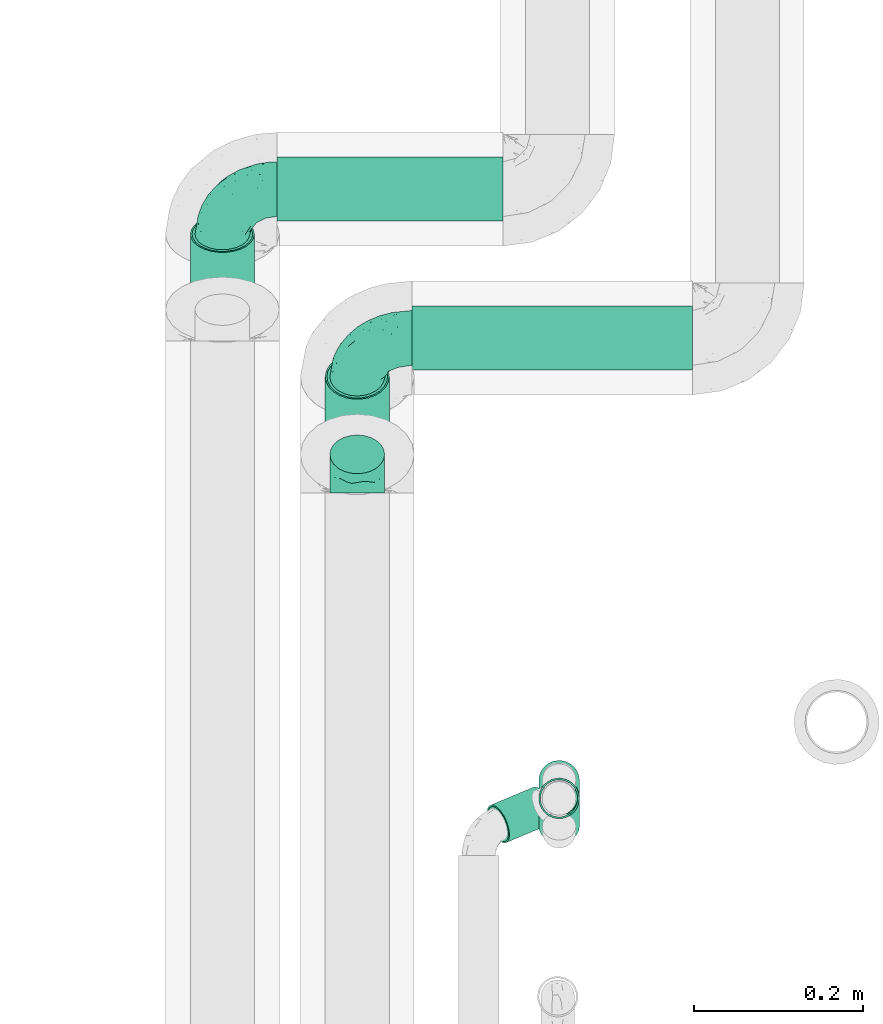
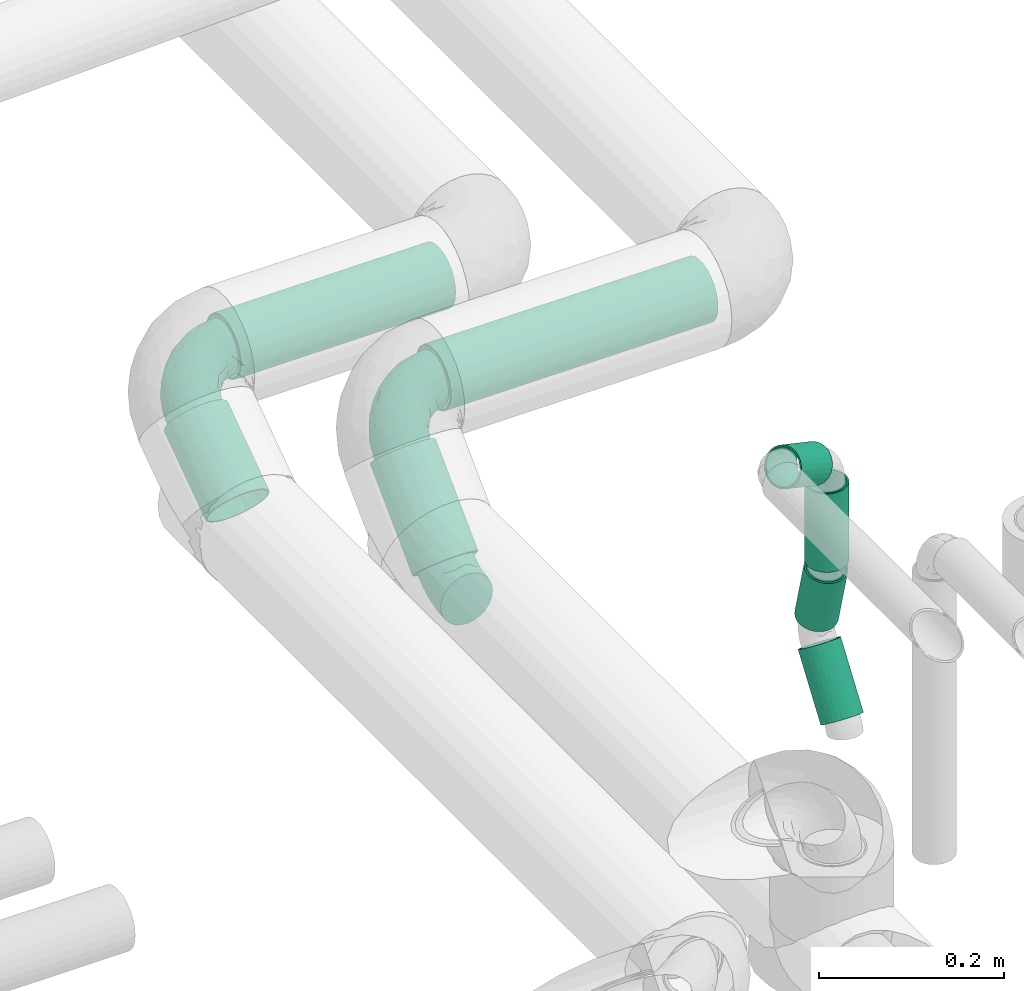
# One storey, part 59 of 156: 8 flow segments, 3 flow fittings.
"""IFC2X3 building model written with IfcOpenShell, lengths in millimetres."""

from ifc_helpers import new_model, entity, si_unit, converted_unit, derived_unit, direction, frame, origin_with_axes, origin_2d_with_axis, place, context, subcontext, project, spatial, hollow_circle, extrude, open_shell, surface_model, source, transform, mapped, type_object, element, save


model = new_model("IFC2X3")

# Units and contexts
model_context = context("Model", 3, precision=0.01, world=frame((0.0, 4.29681676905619e-09, 0.0)), true_north=direction((4.01073788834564e-13, 1.0)))
plan_context = context("Plan", 3, precision=0.01, world=frame((0.0, 4.29681676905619e-09, 0.0)), true_north=direction((4.01073788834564e-13, 1.0)))
body_context = subcontext(model_context, "Body", "Model", "MODEL_VIEW")
ifc_project = project(units=[converted_unit("PLANEANGLEUNIT", "DEGREE", entity("IfcPositiveLengthMeasure", 0.0174532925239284), si_unit("PLANEANGLEUNIT", "RADIAN"), dimensions=[0, 0, 0, 0, 0, 0, 0]), si_unit("AREAUNIT", "SQUARE_METRE"), si_unit("LENGTHUNIT", "METRE", prefix="MILLI"), si_unit("MASSUNIT", "GRAM", prefix="KILO"), si_unit("POWERUNIT", "WATT"), si_unit("PRESSUREUNIT", "PASCAL", prefix="KILO"), si_unit("FORCEUNIT", "NEWTON", prefix="KILO"), si_unit("ELECTRICVOLTAGEUNIT", "VOLT"), si_unit("ELECTRICCURRENTUNIT", "AMPERE"), si_unit("THERMODYNAMICTEMPERATUREUNIT", "DEGREE_CELSIUS"), si_unit("TIMEUNIT", "SECOND"), si_unit("VOLUMEUNIT", "CUBIC_METRE"), derived_unit("LINEARVELOCITYUNIT", [(si_unit("LENGTHUNIT", "METRE"), 1), (si_unit("TIMEUNIT", "SECOND"), -1)]), derived_unit("VOLUMETRICFLOWRATEUNIT", [(si_unit("VOLUMEUNIT", "CUBIC_METRE"), 1), (si_unit("TIMEUNIT", "SECOND"), -1)]), derived_unit("THERMALTRANSMITTANCEUNIT", [(si_unit("POWERUNIT", "WATT"), 1), (si_unit("THERMODYNAMICTEMPERATUREUNIT", "KELVIN"), -1), (si_unit("AREAUNIT", "SQUARE_METRE"), -1)]), derived_unit("SOUNDPRESSUREUNIT", [(si_unit("PRESSUREUNIT", "PASCAL"), 1)])], contexts=[model_context, plan_context])

# Site, building, storey
site_placement = place(None, frame((0.0, -4.29681676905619e-09, 0.0), z_axis=(0.0, 0.0, 1.0), x_axis=(1.0, 0.0, 0.0)))
site = spatial("IfcSite", under=ifc_project, at=site_placement, CompositionType="ELEMENT")
building_placement = place(site_placement, frame((0.0, 4.29681676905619e-09, 0.0), z_axis=(0.0, 0.0, 1.0), x_axis=(1.0, 0.0, 0.0)))
building = spatial("IfcBuilding", under=site, at=building_placement, Name="mc-building", CompositionType="ELEMENT")
storey_placement = place(building_placement, frame((0.0, 0.0, 205200.0), z_axis=(0.0, 0.0, 1.0), x_axis=(1.0, 0.0, 0.0)))
storey = spatial("IfcBuildingStorey", under=building, at=storey_placement, Name="Nivå D + 1,2 m", CompositionType="ELEMENT", Elevation=205200.0)

# Flow fittings
pipe_fitting_type = type_object("IfcPipeFittingType", Name="magi_pipe_elbow_short_001", PredefinedType="BEND")
shared_shape_1 = source(origin_with_axes(), body_context, "Body", "SurfaceModel", [
    surface_model("IfcShellBasedSurfaceModel", [(-65.0, 16.25, -28.14582), (-65.0, 8.41162, -31.39259), (-65.0, 0.0, -32.5), (-65.0, 22.98097, -22.98097), (-65.0, 31.39259, -8.41162), (-65.0, 28.14582, -16.25), (-65.0, -22.98097, -22.98097), (-65.0, -32.5, 0.0), (-65.0, -16.25, -28.14582), (-65.0, -8.41162, -31.39259), (-65.0, -31.39259, -8.41162), (-65.0, -28.14582, -16.25), (-65.0, 28.14582, 16.25), (-65.0, 31.39259, 8.41162), (-65.0, 16.25, 28.14582), (-65.0, -16.25, 28.14582), (-65.0, 22.98097, 22.98097), (-65.0, 8.41162, 31.39259), (-65.0, 0.0, 32.5), (-65.0, -28.14582, 16.25), (-65.0, -22.98097, 22.98097), (-65.0, -31.39259, 8.41162), (-65.0, -8.41162, 31.39259), (-65.0, 32.5, 0.0), (0.0, 65.0, -32.5), (-8.41162, 65.0, -31.39259), (-16.25, 65.0, -28.14582), (-22.98097, 65.0, -22.98097), (-28.14582, 65.0, -16.25), (-31.39259, 65.0, -8.41162), (22.98097, 65.0, -22.98097), (32.5, 65.0, 0.0), (8.41162, 65.0, -31.39259), (16.25, 65.0, -28.14582), (28.14582, 65.0, -16.25), (31.39259, 65.0, -8.41162), (22.98097, 65.0, 22.98097), (-31.39259, 65.0, 8.41162), (-16.25, 65.0, 28.14582), (-28.14582, 65.0, 16.25), (16.25, 65.0, 28.14582), (-22.98097, 65.0, 22.98097), (0.0, 65.0, 32.5), (-8.41162, 65.0, 31.39259), (31.39259, 65.0, 8.41162), (28.14582, 65.0, 16.25), (8.41162, 65.0, 31.39259), (-32.5, 65.0, 0.0), (-43.90702, -28.50357, 10.21429), (-47.66599, -25.24708, 18.24329), (-34.87084, -27.72801, 0.0), (-49.01599, -29.96838, 0.0), (-8.32282, -11.22418, 12.53244), (-2.26208, -8.68175, 6.83487), (1.87734, -1.87734, 13.46633), (-49.6496, -4.30536, 31.94417), (-45.51055, 4.98181, 32.4446), (11.10232, 7.93663, 12.20831), (19.84605, 26.44675, 16.1655), (7.61141, 11.79181, 20.74294), (-32.35679, -0.29166, 31.50073), (-47.54175, -12.2622, 29.22881), (-25.24141, -7.67713, 27.1649), (-41.69066, -18.5666, 24.14336), (-29.11978, -24.90981, 6.68628), (-21.28089, -20.80358, 0.0), (-11.79181, -7.61142, 20.74294), (-5.80543, 5.80543, 26.57151), (-31.76895, 51.87177, 14.12563), (-27.14947, 50.59881, 21.35142), (-12.13166, 56.06035, 30.44206), (-4.45426, 48.61541, 32.42017), (-50.09899, 12.74635, 30.7009), (-8.48341, 21.76765, 31.91167), (-16.14859, 5.96219, 30.34845), (-3.32017, 17.55886, 29.86711), (-56.22928, 19.68144, 26.48178), (-11.29526, 31.96047, 32.44169), (-24.07322, 24.07322, 31.71032), (-19.35215, 14.20223, 32.33259), (-51.38141, 34.61729, 7.14563), (-51.88792, 31.7637, 14.12347), (-40.35305, 40.35305, 12.14877), (-50.80511, 27.09273, 21.32871), (18.5666, 41.69066, 24.14336), (-33.7058, 43.08158, 18.39466), (12.2622, 47.54175, 29.22881), (25.24708, 47.66599, 18.24329), (28.50357, 43.90702, 10.21429), (-7.69094, -13.87916, 0.0), (-15.78148, -17.87706, 8.42054), (4.30536, 49.6496, 31.94417), (-35.71343, 13.92127, 31.91839), (-31.89105, 7.96389, 32.48613), (20.80358, 21.28089, 0.0), (24.90981, 29.11978, 6.68628), (17.87706, 15.78148, 8.42054), (29.96838, 49.01599, 0.0), (-34.55128, 22.0521, 30.06059), (-26.44675, -19.84605, 16.1655), (-23.56236, 42.00642, 27.31532), (-19.85518, 54.49722, 26.61661), (-34.21038, 52.42992, 6.97228), (-40.73172, 42.62744, 5.71978), (14.97296, 26.18012, 22.02699), (7.67713, 25.24141, 27.1649), (-36.85418, 48.75, 0.0), (-30.08671, 34.32049, 26.70528), (-44.75398, 22.06156, 27.36835), (-0.49673, 0.49673, 19.20125), (-18.54586, 33.64303, 31.24245), (-25.89232, 31.46486, 29.57131), (-14.05565, 44.0383, 30.95171), (-34.25835, 36.29564, 23.02122), (-41.74137, 34.9217, 18.12276), (0.29166, 32.35679, 31.50073), (-26.05885, -14.24556, 22.66105), (8.86268, 2.36037, 6.4802), (27.72801, 34.87084, 0.0), (13.87916, 7.69094, 0.0), (-48.75, 36.85418, 0.0), (3.09411, -3.09411, 0.0), (-47.92601, 27.98949, -21.64777), (-51.85818, 31.77338, -14.12745), (-26.55091, -8.20204, -27.26679), (-28.22117, -0.4054, -30.91131), (-13.05808, -0.54385, -26.63038), (-51.44999, 4.10942, -32.39422), (-47.41254, -29.09488, -10.59528), (-40.83541, -24.10132, -17.60314), (-31.01128, -24.37143, -10.90365), (-47.28426, 13.26677, -30.81881), (-35.80381, 7.68292, -32.49298), (-27.98949, 47.926, -21.64777), (-52.61518, 34.1021, -7.1115), (-20.39883, 51.02225, -26.88546), (-13.26677, 47.28425, -30.81881), (-41.3544, 41.3544, -7.75963), (19.41673, 47.01902, -24.53799), (11.21609, 41.15804, -28.90474), (12.81249, 54.88919, -29.57871), (-6.33191, -11.43232, -8.55907), (-6.42402, -8.42757, -14.80991), (3.49643, -2.75853, -8.57549), (-18.96438, 17.57366, -32.48155), (-30.80999, 19.23044, -31.53267), (-51.02225, 20.39883, -26.88546), (-54.71682, -25.87182, -18.8826), (-31.61812, 36.9194, -24.4791), (-30.03666, 30.03666, -28.53614), (-39.72338, 27.45383, -25.81957), (2.83418, -0.59734, -13.92945), (-47.01902, -19.41673, -24.53799), (24.10132, 40.83541, -17.60314), (29.09488, 47.41254, -10.59528), (24.37143, 31.01128, -10.90365), (-54.88919, -12.81249, -29.57871), (4.09785, 47.8829, -31.90577), (-20.54613, -15.81902, -17.72957), (-24.2662, -13.25756, -22.73526), (-11.78149, -8.03072, -20.32007), (-35.46896, -14.83968, -25.51841), (-41.15804, -11.21609, -28.90474), (-47.8829, -4.09785, -31.90577), (-24.35359, 39.98269, -27.53072), (-34.1021, 52.61518, -7.1115), (-4.10942, 51.44999, -32.39422), (-11.47328, 11.47328, -30.68873), (0.4054, 28.22117, -30.91131), (1.36819, 15.2666, -27.10351), (-31.77338, 51.85818, -14.12745), (-39.0335, 39.0335, -16.01919), (25.87182, 54.71682, -18.8826), (18.8348, 26.11149, -17.45424), (10.47668, 12.32102, -18.0266), (13.25756, 24.2662, -22.73526), (6.71713, 27.74562, -28.39194), (-7.68292, 35.80381, -32.49298), (-39.5129, 20.9158, -29.29247), (-19.37897, 31.62685, -31.37546), (-0.30809, 0.30809, -18.83153), (-15.05383, -18.17086, -5.59074), (16.66507, 16.14703, -12.10401), (18.17086, 15.05383, -5.59074), (3.82878, 9.90613, -22.79737), (-16.14703, -16.66507, -12.10401)], [open_shell([[[0, 1, 2]], [[3, 0, 2]], [[4, 5, 3]], [[6, 3, 2]], [[4, 3, 7]], [[8, 6, 9]], [[6, 2, 9]], [[10, 7, 11]], [[6, 11, 7]], [[6, 7, 3]], [[7, 12, 4]], [[4, 12, 13]], [[14, 12, 7]], [[15, 14, 7]], [[16, 12, 14]], [[17, 14, 18]], [[19, 20, 21]], [[21, 20, 7]], [[22, 18, 15]], [[15, 7, 20]], [[14, 15, 18]], [[4, 13, 23]], [[24, 25, 26]], [[24, 26, 27]], [[27, 28, 29]], [[24, 27, 30]], [[31, 27, 29]], [[32, 30, 33]], [[32, 24, 30]], [[34, 31, 35]], [[31, 34, 30]], [[27, 31, 30]], [[29, 36, 31]], [[36, 29, 37]], [[38, 37, 39]], [[40, 37, 38]], [[38, 39, 41]], [[42, 38, 43]], [[44, 36, 45]], [[31, 36, 44]], [[40, 42, 46]], [[40, 36, 37]], [[42, 40, 38]], [[29, 47, 37]], [[48, 49, 19]], [[50, 48, 51]], [[52, 53, 54]], [[21, 48, 19]], [[21, 51, 48]], [[18, 55, 56]], [[19, 49, 20]], [[57, 58, 59]], [[60, 61, 62]], [[63, 15, 20]], [[63, 61, 15]], [[64, 50, 65]], [[62, 66, 67]], [[39, 68, 69]], [[43, 70, 71]], [[17, 72, 14]], [[73, 74, 75]], [[14, 76, 16]], [[22, 55, 18]], [[77, 78, 79]], [[80, 81, 82]], [[12, 83, 81]], [[84, 36, 40]], [[23, 13, 80]], [[13, 12, 81]], [[68, 85, 69]], [[83, 12, 16]], [[18, 56, 17]], [[40, 86, 84]], [[16, 76, 83]], [[87, 58, 88]], [[39, 37, 68]], [[89, 90, 65]], [[42, 91, 46]], [[65, 90, 64]], [[42, 43, 71]], [[92, 93, 79]], [[88, 44, 45]], [[45, 36, 87]], [[87, 88, 45]], [[94, 95, 96]], [[88, 97, 44]], [[98, 72, 92]], [[49, 99, 63]], [[69, 100, 101]], [[82, 102, 103]], [[104, 105, 59]], [[106, 102, 47]], [[98, 107, 108]], [[102, 82, 68]], [[86, 40, 46]], [[69, 41, 39]], [[109, 54, 57]], [[110, 100, 111]], [[15, 61, 22]], [[101, 38, 41]], [[70, 43, 38]], [[112, 77, 71]], [[84, 86, 105]], [[96, 95, 58]], [[100, 69, 113]], [[72, 17, 56]], [[108, 113, 83]], [[81, 114, 82]], [[112, 110, 77]], [[91, 71, 115]], [[62, 61, 63]], [[55, 61, 60]], [[116, 99, 66]], [[74, 62, 67]], [[91, 86, 46]], [[105, 86, 115]], [[75, 105, 115]], [[109, 67, 66]], [[59, 105, 67]], [[48, 64, 99]], [[99, 49, 48]], [[63, 20, 49]], [[36, 84, 87]], [[58, 87, 84]], [[92, 72, 56]], [[76, 72, 108]], [[102, 68, 37]], [[82, 114, 85]], [[98, 111, 107]], [[112, 70, 101]], [[114, 83, 113]], [[82, 103, 80]], [[92, 79, 78]], [[115, 71, 77]], [[74, 79, 60]], [[77, 79, 73]], [[71, 91, 42]], [[86, 91, 115]], [[61, 55, 22]], [[56, 55, 60]], [[57, 54, 117]], [[104, 59, 58]], [[116, 66, 62]], [[52, 99, 90]], [[21, 7, 51]], [[97, 88, 118]], [[97, 31, 44]], [[53, 90, 89]], [[90, 53, 52]], [[94, 96, 119]], [[88, 95, 118]], [[117, 54, 53]], [[92, 56, 93]], [[98, 92, 78]], [[111, 98, 78]], [[72, 98, 108]], [[110, 111, 78]], [[107, 111, 100]], [[47, 102, 37]], [[102, 106, 103]], [[106, 120, 103]], [[103, 120, 80]], [[23, 80, 120]], [[13, 81, 80]], [[56, 60, 93]], [[60, 79, 93]], [[117, 121, 119]], [[121, 117, 53]], [[53, 89, 121]], [[119, 96, 117]], [[117, 96, 57]], [[77, 110, 78]], [[100, 110, 112]], [[83, 114, 81]], [[85, 114, 113]], [[69, 85, 113]], [[82, 85, 68]], [[109, 52, 54]], [[99, 52, 66]], [[69, 101, 41]], [[112, 101, 100]], [[100, 113, 107]], [[108, 107, 113]], [[62, 74, 60]], [[75, 74, 67]], [[105, 75, 67]], [[73, 75, 115]], [[77, 73, 115]], [[74, 73, 79]], [[99, 64, 90]], [[50, 64, 48]], [[118, 95, 94]], [[58, 95, 88]], [[58, 57, 96]], [[109, 57, 59]], [[72, 76, 14]], [[83, 76, 108]], [[101, 70, 38]], [[71, 70, 112]], [[58, 84, 104]], [[105, 104, 84]], [[67, 109, 59]], [[52, 109, 66]], [[62, 63, 116]], [[99, 116, 63]], [[122, 5, 123]], [[124, 125, 126]], [[2, 1, 127]], [[128, 129, 130]], [[127, 131, 132]], [[28, 27, 133]], [[120, 134, 23]], [[135, 26, 136]], [[123, 134, 137]], [[138, 139, 140]], [[122, 3, 5]], [[141, 142, 143]], [[144, 132, 145]], [[131, 0, 146]], [[128, 11, 147]], [[148, 149, 150]], [[128, 51, 10]], [[142, 151, 143]], [[152, 6, 8]], [[153, 154, 155]], [[156, 152, 8]], [[32, 157, 24]], [[158, 159, 160]], [[147, 11, 6]], [[129, 152, 161]], [[156, 8, 9]], [[162, 163, 125]], [[154, 34, 35]], [[120, 106, 137]], [[149, 148, 164]], [[47, 29, 165]], [[163, 9, 2]], [[5, 4, 123]], [[25, 166, 136]], [[167, 168, 169]], [[170, 133, 171]], [[25, 24, 166]], [[33, 30, 138]], [[157, 32, 140]], [[29, 28, 170]], [[30, 34, 172]], [[26, 135, 27]], [[132, 131, 145]], [[32, 33, 140]], [[173, 174, 175]], [[169, 168, 176]], [[25, 136, 26]], [[175, 138, 173]], [[168, 177, 157]], [[163, 162, 156]], [[153, 172, 154]], [[11, 128, 10]], [[154, 97, 118]], [[131, 178, 145]], [[0, 3, 146]], [[175, 139, 138]], [[155, 118, 94]], [[131, 1, 0]], [[146, 178, 131]], [[170, 137, 165]], [[149, 179, 145]], [[171, 133, 148]], [[160, 180, 142]], [[65, 181, 89]], [[170, 165, 29]], [[137, 171, 123]], [[172, 138, 30]], [[138, 153, 173]], [[168, 157, 139]], [[166, 157, 177]], [[176, 175, 169]], [[168, 167, 144]], [[154, 35, 97]], [[155, 182, 173]], [[162, 124, 161]], [[147, 152, 129]], [[127, 163, 2]], [[132, 144, 125]], [[132, 125, 163]], [[125, 167, 126]], [[129, 158, 130]], [[35, 31, 97]], [[143, 182, 183]], [[169, 126, 167]], [[3, 122, 146]], [[178, 150, 149]], [[136, 179, 164]], [[133, 27, 135]], [[123, 4, 134]], [[122, 123, 171]], [[133, 170, 28]], [[137, 170, 171]], [[184, 175, 174]], [[180, 160, 126]], [[126, 169, 184]], [[126, 159, 124]], [[51, 128, 50]], [[51, 7, 10]], [[131, 127, 1]], [[163, 127, 132]], [[157, 166, 24]], [[136, 166, 177]], [[164, 179, 149]], [[144, 167, 125]], [[179, 144, 145]], [[168, 144, 177]], [[136, 177, 179]], [[144, 179, 177]], [[141, 121, 89]], [[89, 181, 141]], [[154, 118, 155]], [[183, 155, 94]], [[143, 183, 119]], [[119, 183, 94]], [[155, 183, 182]], [[181, 130, 185]], [[50, 128, 130]], [[130, 181, 65]], [[50, 130, 65]], [[141, 181, 185]], [[142, 141, 185]], [[143, 121, 141]], [[158, 160, 142]], [[142, 180, 151]], [[158, 142, 185]], [[126, 160, 159]], [[130, 158, 185]], [[129, 159, 158]], [[23, 134, 4]], [[120, 137, 134]], [[137, 106, 165]], [[47, 165, 106]], [[174, 151, 180]], [[182, 143, 151]], [[150, 146, 122]], [[149, 145, 178]], [[146, 150, 178]], [[122, 171, 148]], [[148, 150, 122]], [[164, 133, 135]], [[133, 164, 148]], [[164, 135, 136]], [[138, 140, 33]], [[157, 140, 139]], [[154, 172, 34]], [[138, 172, 153]], [[163, 156, 9]], [[152, 156, 162]], [[152, 147, 6]], [[128, 147, 129]], [[155, 173, 153]], [[174, 173, 182]], [[151, 174, 182]], [[174, 180, 184]], [[126, 184, 180]], [[175, 184, 169]], [[168, 139, 176]], [[175, 176, 139]], [[161, 124, 159]], [[125, 124, 162]], [[129, 161, 159]], [[162, 161, 152]], [[143, 119, 121]]])]),
])
for number, where, z_axis, x_axis, name in (
    (1, (329697.42979, 461675.28932, 4163.33854999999), (0.0, -0.57447915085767, 0.818519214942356), (-1.0, 0.0, 0.0), "magi_pipe_elbow_short_001"),
    (2, (329857.42979, 461498.85076, 4172.95997999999), (0.0, 0.707106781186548, -0.707106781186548), (0.0, 0.707106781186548, 0.707106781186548), "magi_pipe_elbow_short_001"),
):
    element("IfcFlowFitting", number, at=place(storey_placement, frame(where, z_axis=z_axis, x_axis=x_axis)), inside=storey, type_object=pipe_fitting_type, Name=name, context=body_context, shape_type="MappedRepresentation", body=[
        mapped(shared_shape_1, transform((0.0, 0.0, 0.0), scale=1.0)),
    ])
shared_shape_2 = source(origin_with_axes(), body_context, "Body", "SurfaceModel", [
    surface_model("IfcShellBasedSurfaceModel", [(-26.92388, 16.25, -28.14582), (-26.92388, 8.41162, -31.39259), (-26.92388, 0.0, -32.5), (-26.92388, -22.98097, -22.98097), (-26.92388, 31.39259, -8.41162), (-26.92388, 28.14582, -16.25), (-26.92388, 22.98097, -22.98097), (-26.92388, -32.5, 0.0), (-26.92388, -31.39259, 8.41162), (-26.92388, -16.25, -28.14582), (-26.92388, -8.41162, -31.39259), (-26.92388, -31.39259, -8.41162), (-26.92388, -28.14582, -16.25), (-26.92388, -22.98097, 22.98097), (-26.92388, 31.39259, 8.41162), (-26.92388, 28.14582, 16.25), (-26.92388, 16.25, 28.14582), (-26.92388, 22.98097, 22.98097), (-26.92388, 0.0, 32.5), (-26.92388, 8.41162, 31.39259), (-26.92388, -28.14582, 16.25), (-26.92388, -8.41162, 31.39259), (-26.92388, -16.25, 28.14582), (-26.92388, 32.5, 0.0), (19.03806, 19.03806, -32.5), (13.09015, 24.98597, -31.39259), (7.54757, 30.52854, -28.14582), (35.28806, 2.78806, -22.98097), (2.78806, 35.28806, -22.98097), (-0.86404, 38.94016, -16.25), (-3.15985, 41.23597, -8.41162), (24.98597, 13.09015, -31.39259), (30.52854, 7.54757, -28.14582), (41.23597, -3.15985, -8.41162), (38.94016, -0.86404, -16.25), (42.01903, -3.94291, 0.0), (7.54757, 30.52854, 28.14582), (-3.15985, 41.23597, 8.41162), (-0.86404, 38.94016, 16.25), (13.09015, 24.98597, 31.39259), (2.78806, 35.28806, 22.98097), (19.03806, 19.03806, 32.5), (38.94016, -0.86404, 16.25), (41.23597, -3.15985, 8.41162), (35.28806, 2.78806, 22.98097), (30.52854, 7.54757, 28.14582), (24.98597, 13.09015, 31.39259), (-3.94291, 42.01903, 0.0), (8.27755, -19.98378, 18.11127), (-7.19012, -18.36825, 25.07827), (-10.49464, -24.85635, 19.03), (-10.85887, -30.385, 0.0), (-1.68902, -29.17777, 0.0), (-6.93692, -29.94166, 5.54969), (24.99692, -10.15526, 19.03), (-12.87772, -11.91748, 29.70333), (3.33702, -8.05628, 29.29384), (0.96468, 19.53831, 30.33412), (5.87525, 15.38404, 32.02729), (-9.6998, -3.12918, 32.06943), (-3.09119, 7.4628, 32.3858), (-16.28399, 4.50357, 32.30277), (-9.23169, 22.28727, 26.53318), (-14.33241, 27.25604, 20.50969), (17.53286, 0.67899, 29.70333), (-12.48753, 13.52414, 30.38292), (12.54235, -21.27083, 12.8085), (-5.82736, -28.11742, 11.28642), (10.09042, -24.36044, 7.06389), (-13.38854, 32.32279, 13.3524), (26.07709, -16.26681, 5.54969), (29.16382, -13.80706, 0.0), (-13.01769, 34.82467, 6.82863), (24.00259, -15.76146, 11.28642), (9.07146, 4.64613, 32.06943), (18.0725, -7.90413, 25.07827), (-14.48667, 34.97391, 0.0), (5.45506, -13.16968, 25.91695), (10.06855, -24.30762, 0.0), (21.82612, -19.43748, 0.0), (-9.6998, -3.12918, -32.06943), (-6.93692, -29.94166, -5.54969), (10.09042, -24.36044, -7.06389), (9.07146, 4.64613, -32.06943), (-14.4978, 13.13354, -30.33412), (-15.03259, 6.72373, -32.02729), (-9.13839, 29.40748, -20.50969), (18.0725, -7.90413, -25.07827), (-13.38854, 32.32279, -13.3524), (24.00259, -15.76146, -11.28641), (-15.41986, 33.82966, -6.82863), (-0.733, 18.39302, -30.38292), (-5.82736, -28.11742, -11.28641), (-9.23169, 22.28727, -26.53318), (-10.49464, -24.85635, -19.03), (-7.19012, -18.36825, -25.07827), (5.45506, -13.16968, -25.91695), (8.27755, -19.98378, -18.11127), (-12.87772, -11.91748, -29.70333), (17.53286, 0.67899, -29.70333), (3.33702, -8.05628, -29.29384), (26.07709, -16.26681, -5.54969), (8.33002, 14.69902, -32.30277), (6.17196, -23.90953, -12.80849), (24.99692, -10.15526, -19.03), (-3.09119, 7.4628, -32.3858)], [open_shell([[[0, 1, 2]], [[0, 2, 3]], [[4, 5, 6]], [[6, 0, 7]], [[6, 7, 8]], [[9, 3, 10]], [[3, 2, 10]], [[11, 7, 12]], [[3, 12, 7]], [[3, 7, 0]], [[8, 4, 6]], [[13, 14, 4]], [[15, 14, 16]], [[13, 16, 14]], [[17, 15, 16]], [[16, 18, 19]], [[20, 13, 8]], [[8, 13, 4]], [[21, 18, 22]], [[16, 13, 22]], [[16, 22, 18]], [[23, 4, 14]], [[24, 25, 26]], [[27, 24, 26]], [[28, 29, 30]], [[27, 26, 28]], [[27, 28, 30]], [[31, 27, 32]], [[31, 24, 27]], [[27, 33, 34]], [[33, 27, 35]], [[27, 36, 35]], [[27, 30, 36]], [[30, 37, 36]], [[36, 37, 38]], [[39, 35, 36]], [[36, 38, 40]], [[35, 39, 41]], [[35, 42, 43]], [[35, 44, 42]], [[45, 41, 46]], [[44, 35, 45]], [[41, 45, 35]], [[37, 30, 47]], [[48, 49, 50]], [[51, 52, 53]], [[22, 13, 49]], [[42, 44, 54]], [[55, 49, 56]], [[50, 49, 13]], [[39, 57, 58]], [[21, 22, 55]], [[59, 60, 61]], [[18, 21, 59]], [[17, 62, 63]], [[45, 46, 64]], [[61, 19, 18]], [[16, 65, 62]], [[8, 51, 53]], [[36, 40, 62]], [[66, 67, 68]], [[62, 17, 16]], [[13, 20, 50]], [[15, 63, 69]], [[14, 15, 69]], [[43, 70, 71]], [[72, 23, 14]], [[73, 66, 68]], [[67, 53, 68]], [[16, 19, 65]], [[41, 58, 74]], [[44, 45, 75]], [[38, 37, 69]], [[74, 46, 41]], [[48, 50, 67]], [[44, 75, 54]], [[60, 58, 57]], [[75, 45, 64]], [[20, 67, 50]], [[70, 43, 73]], [[48, 54, 75]], [[61, 65, 19]], [[48, 66, 54]], [[14, 69, 72]], [[20, 8, 67]], [[76, 72, 47]], [[49, 77, 56]], [[37, 72, 69]], [[56, 74, 59]], [[38, 69, 63]], [[56, 64, 74]], [[38, 63, 40]], [[60, 59, 74]], [[39, 36, 57]], [[57, 62, 65]], [[55, 59, 21]], [[15, 17, 63]], [[73, 43, 42]], [[73, 42, 54]], [[77, 48, 75]], [[40, 63, 62]], [[62, 57, 36]], [[60, 57, 65]], [[49, 55, 22]], [[59, 55, 56]], [[74, 64, 46]], [[75, 64, 56]], [[8, 7, 51]], [[68, 52, 78]], [[8, 53, 67]], [[52, 68, 53]], [[70, 68, 79]], [[71, 70, 79]], [[71, 35, 43]], [[68, 70, 73]], [[74, 58, 60]], [[41, 39, 58]], [[59, 61, 18]], [[65, 61, 60]], [[48, 77, 49]], [[75, 56, 77]], [[47, 72, 37]], [[72, 76, 23]], [[54, 66, 73]], [[67, 66, 48]], [[79, 68, 78]], [[10, 2, 80]], [[52, 81, 82]], [[24, 31, 83]], [[84, 85, 1]], [[5, 86, 6]], [[32, 27, 87]], [[88, 86, 5]], [[34, 33, 89]], [[4, 90, 88]], [[26, 25, 91]], [[11, 81, 51]], [[0, 84, 1]], [[81, 11, 92]], [[28, 93, 86]], [[92, 12, 94]], [[94, 3, 95]], [[3, 9, 95]], [[96, 97, 95]], [[11, 12, 92]], [[3, 94, 12]], [[98, 9, 10]], [[99, 83, 31]], [[30, 29, 88]], [[100, 98, 80]], [[23, 76, 90]], [[97, 94, 95]], [[47, 30, 90]], [[100, 80, 83]], [[28, 26, 93]], [[88, 5, 4]], [[29, 86, 88]], [[98, 95, 9]], [[91, 93, 26]], [[85, 80, 2]], [[93, 91, 84]], [[6, 93, 0]], [[33, 71, 101]], [[102, 25, 24]], [[99, 31, 32]], [[103, 89, 82]], [[27, 104, 87]], [[100, 99, 87]], [[27, 34, 104]], [[105, 102, 83]], [[104, 97, 87]], [[105, 83, 80]], [[101, 71, 79]], [[102, 91, 25]], [[105, 85, 84]], [[81, 92, 82]], [[97, 103, 94]], [[87, 96, 100]], [[34, 89, 104]], [[30, 88, 90]], [[97, 104, 89]], [[29, 28, 86]], [[6, 86, 93]], [[93, 84, 0]], [[105, 84, 91]], [[80, 98, 10]], [[95, 98, 100]], [[87, 99, 32]], [[83, 99, 100]], [[51, 81, 52]], [[51, 7, 11]], [[103, 82, 92]], [[101, 82, 89]], [[82, 79, 78]], [[33, 35, 71]], [[82, 101, 79]], [[33, 101, 89]], [[80, 85, 105]], [[2, 1, 85]], [[83, 102, 24]], [[91, 102, 105]], [[97, 96, 87]], [[95, 100, 96]], [[23, 90, 4]], [[90, 76, 47]], [[94, 103, 92]], [[89, 103, 97]], [[52, 82, 78]]])]),
])
flow_fitting_placement = place(storey_placement, frame((329857.42979, 461341.64697, 4015.75618999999), z_axis=(1.0, 0.0, 0.0), x_axis=(0.0, 1.0, 0.0)))
element("IfcFlowFitting", 3, at=flow_fitting_placement, inside=storey, type_object=pipe_fitting_type, Name="magi_pipe_elbow_short_001", context=body_context, shape_type="MappedRepresentation", body=[
    mapped(shared_shape_2, transform((0.0, 0.0, 0.0), scale=1.0)),
])

# Flow segments
pipe_segment_type = type_object("IfcPipeSegmentType", Name="Stålrør normaltykke", PredefinedType="RIGIDSEGMENT")
shared_shape_3 = source(origin_with_axes(), body_context, "Body", "SweptSolid", [
    extrude(hollow_circle(Radius=38.0, WallThickness=2.0, at=origin_2d_with_axis()), frame((0.0, 0.0, 0.0), z_axis=(1.0, 0.0, 0.0), x_axis=(0.0, 1.0, 0.0)), (0.0, 0.0, 1.0), 267.8),
])
flow_segment_1_placement = place(storey_placement, frame((329762.42979, 461675.28932, 4163.33854999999), z_axis=(0.0, 0.0, 1.0), x_axis=(1.0, 0.0, 0.0)))
element("IfcFlowSegment", 4, at=flow_segment_1_placement, inside=storey, type_object=pipe_segment_type, Name="Stålrør normaltykke", context=body_context, shape_type="MappedRepresentation", body=[
    mapped(shared_shape_3, transform((0.0, 0.0, 0.0), scale=1.0)),
])
shared_shape_4 = source(origin_with_axes(), body_context, "Body", "SweptSolid", [
    extrude(hollow_circle(Radius=38.0, WallThickness=2.0, at=origin_2d_with_axis()), frame((0.0, 0.0, 0.0), z_axis=(1.0, 0.0, 0.0), x_axis=(0.0, 1.0, 0.0)), (0.0, 0.0, 1.0), 109.7),
])
flow_segment_2_placement = place(storey_placement, frame((329697.42979, 461622.08558, 4125.99739999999), z_axis=(0.0, -0.57447915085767, 0.818519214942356), x_axis=(0.0, -0.818519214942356, -0.57447915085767)))
element("IfcFlowSegment", 5, at=flow_segment_2_placement, inside=storey, type_object=pipe_segment_type, Name="Stålrør normaltykke", context=body_context, shape_type="MappedRepresentation", body=[
    mapped(shared_shape_4, transform((0.0, 0.0, 0.0), scale=1.0)),
])
shared_shape_5 = source(origin_with_axes(), body_context, "Body", "SweptSolid", [
    extrude(hollow_circle(Radius=38.0, WallThickness=2.0, at=origin_2d_with_axis()), frame((0.0, 0.0, 0.0), z_axis=(1.0, 0.0, 0.0), x_axis=(0.0, 1.0, 0.0)), (0.0, 0.0, 1.0), 130.4),
])
flow_segment_3_placement = place(storey_placement, frame((329857.42979, 461360.68503, 4034.79425000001), z_axis=(0.0, -0.707106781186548, 0.707106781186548), x_axis=(0.0, 0.707106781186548, 0.707106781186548)))
element("IfcFlowSegment", 6, at=flow_segment_3_placement, inside=storey, type_object=pipe_segment_type, Name="Stålrør normaltykke", context=body_context, shape_type="MappedRepresentation", body=[
    mapped(shared_shape_5, transform((0.0, 0.0, 0.0), scale=1.0)),
])
shared_shape_6 = source(origin_with_axes(), body_context, "Body", "SweptSolid", [
    extrude(hollow_circle(Radius=38.0, WallThickness=2.0, at=origin_2d_with_axis()), frame((0.0, 0.0, 0.0), z_axis=(1.0, 0.0, 0.0), x_axis=(0.0, 1.0, 0.0)), (0.0, 0.0, 1.0), 332.8),
])
flow_segment_4_placement = place(storey_placement, frame((329922.42979, 461498.85076, 4172.95997999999), z_axis=(0.0, 0.0, 1.0), x_axis=(1.0, 0.0, 0.0)))
element("IfcFlowSegment", 7, at=flow_segment_4_placement, inside=storey, type_object=pipe_segment_type, Name="Stålrør normaltykke", context=body_context, shape_type="MappedRepresentation", body=[
    mapped(shared_shape_6, transform((0.0, 0.0, 0.0), scale=1.0)),
])
shared_shape_7 = source(origin_with_axes(), body_context, "Body", "SweptSolid", [
    extrude(hollow_circle(Radius=24.1, WallThickness=2.0, at=origin_2d_with_axis()), frame((0.0, 0.0, 0.0), z_axis=(1.0, 0.0, 0.0), x_axis=(0.0, 1.0, 0.0)), (0.0, 0.0, 1.0), 85.3),
])
flow_segment_5_placement = place(storey_placement, frame((330096.89132, 460919.37119, 4014.22661000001), z_axis=(0.0, -0.819152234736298, 0.573576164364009), x_axis=(0.0, 0.573576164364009, 0.819152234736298)))
element("IfcFlowSegment", 8, at=flow_segment_5_placement, inside=storey, type_object=pipe_segment_type, Name="Stålrør normaltykke", context=body_context, shape_type="MappedRepresentation", body=[
    mapped(shared_shape_7, transform((0.0, 0.0, 0.0), scale=1.0)),
])
shared_shape_8 = source(origin_with_axes(), body_context, "Body", "SweptSolid", [
    extrude(hollow_circle(Radius=24.1, WallThickness=2.0, at=origin_2d_with_axis()), frame((0.0, 0.0, 0.0), z_axis=(1.0, 0.0, 0.0), x_axis=(0.0, 1.0, 0.0)), (0.0, 0.0, 1.0), 78.3),
])
flow_segment_6_placement = place(storey_placement, frame((330096.89132, 460974.15953, 4117.38370999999), z_axis=(0.0, 0.965925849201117, 0.258818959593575), x_axis=(0.0, -0.258818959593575, 0.965925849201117)))
element("IfcFlowSegment", 9, at=flow_segment_6_placement, inside=storey, type_object=pipe_segment_type, Name="Stålrør normaltykke", context=body_context, shape_type="MappedRepresentation", body=[
    mapped(shared_shape_8, transform((0.0, 0.0, 0.0), scale=1.0)),
])
shared_shape_9 = source(origin_with_axes(), body_context, "Body", "SweptSolid", [
    extrude(hollow_circle(Radius=24.1, WallThickness=2.0, at=origin_2d_with_axis()), frame((0.0, 0.0, 0.0), z_axis=(1.0, 0.0, 0.0), x_axis=(0.0, 1.0, 0.0)), (0.0, 0.0, 1.0), 103.4),
])
flow_segment_7_placement = place(storey_placement, frame((330096.89132, 460952.5182, 4203.41635000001), z_axis=(0.921963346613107, 0.387277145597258, 0.0), x_axis=(0.0, 0.0, 1.0)))
element("IfcFlowSegment", 10, at=flow_segment_7_placement, inside=storey, type_object=pipe_segment_type, Name="Stålrør normaltykke", context=body_context, shape_type="MappedRepresentation", body=[
    mapped(shared_shape_9, transform((0.0, 0.0, 0.0), scale=1.0)),
])
shared_shape_10 = source(origin_with_axes(), body_context, "Body", "SweptSolid", [
    extrude(hollow_circle(Radius=24.1, WallThickness=2.0, at=origin_2d_with_axis()), frame((0.0, 0.0, 0.0), z_axis=(1.0, 0.0, 0.0), x_axis=(0.0, 1.0, 0.0)), (0.0, 0.0, 1.0), 61.3),
])
flow_segment_8_placement = place(storey_placement, frame((330075.76917, 460943.64569, 4342.99463999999), z_axis=(-0.311629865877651, 0.93669359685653, 0.159661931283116), x_axis=(-0.833577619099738, -0.350150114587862, 0.427250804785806)))
element("IfcFlowSegment", 11, at=flow_segment_8_placement, inside=storey, type_object=pipe_segment_type, Name="Stålrør normaltykke", context=body_context, shape_type="MappedRepresentation", body=[
    mapped(shared_shape_10, transform((0.0, 0.0, 0.0), scale=1.0)),
])

save(model, "model.ifc")
